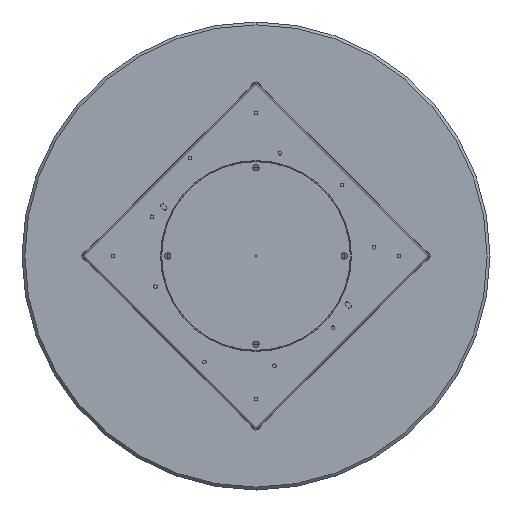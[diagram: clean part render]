
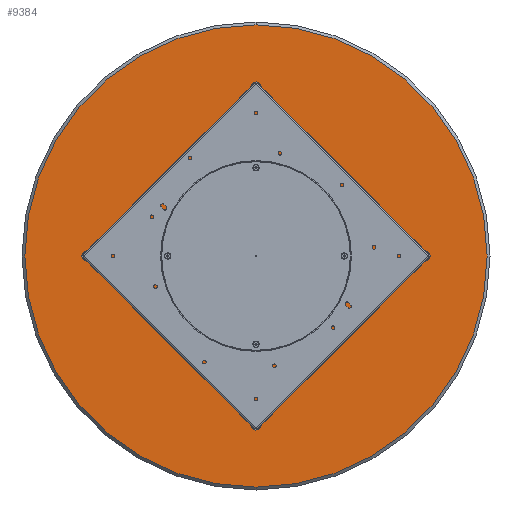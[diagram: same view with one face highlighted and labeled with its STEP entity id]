
A CAD part, front view. The second image highlights one B-rep face of the part: STEP entity #9384.
In plain terms, the highlighted planar face has unit normal (0, -1, 0).
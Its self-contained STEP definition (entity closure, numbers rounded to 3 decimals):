
#417 = DIRECTION ( 'NONE',  ( 0., -1., 0. ) ) ;
#910 = VERTEX_POINT ( 'NONE', #7616 ) ;
#990 = CIRCLE ( 'NONE', #9595, 642. ) ;
#2581 = EDGE_CURVE ( 'NONE', #3929, #910, #4509, .T. ) ;
#2879 = DIRECTION ( 'NONE',  ( 0., 0., -1. ) ) ;
#3726 = DIRECTION ( 'NONE',  ( 0., 0., -1. ) ) ;
#3929 = VERTEX_POINT ( 'NONE', #12159 ) ;
#3976 = PLANE ( 'NONE',  #11851 ) ;
#4509 = CIRCLE ( 'NONE', #11337, 642. ) ;
#5674 = CARTESIAN_POINT ( 'NONE',  ( 0., 0., 0. ) ) ;
#6082 = EDGE_CURVE ( 'NONE', #910, #3929, #990, .T. ) ;
#7616 = CARTESIAN_POINT ( 'NONE',  ( 0., 0., 642. ) ) ;
#7630 = CARTESIAN_POINT ( 'NONE',  ( 0., 0., 0. ) ) ;
#9384 = ADVANCED_FACE ( 'NONE', ( #9931 ), #3976, .T. ) ;
#9572 = EDGE_LOOP ( 'NONE', ( #10412, #13599 ) ) ;
#9595 = AXIS2_PLACEMENT_3D ( 'NONE', #7630, #14496, #3726 ) ;
#9931 = FACE_OUTER_BOUND ( 'NONE', #9572, .T. ) ;
#10412 = ORIENTED_EDGE ( 'NONE', *, *, #6082, .T. ) ;
#10500 = DIRECTION ( 'NONE',  ( 0., -1., 0. ) ) ;
#11337 = AXIS2_PLACEMENT_3D ( 'NONE', #5674, #10500, #15292 ) ;
#11851 = AXIS2_PLACEMENT_3D ( 'NONE', #14737, #417, #2879 ) ;
#12159 = CARTESIAN_POINT ( 'NONE',  ( 0., 0., -642. ) ) ;
#13599 = ORIENTED_EDGE ( 'NONE', *, *, #2581, .T. ) ;
#14496 = DIRECTION ( 'NONE',  ( 0., -1., 0. ) ) ;
#14737 = CARTESIAN_POINT ( 'NONE',  ( 0., 0., 0. ) ) ;
#15292 = DIRECTION ( 'NONE',  ( 0., 0., -1. ) ) ;
